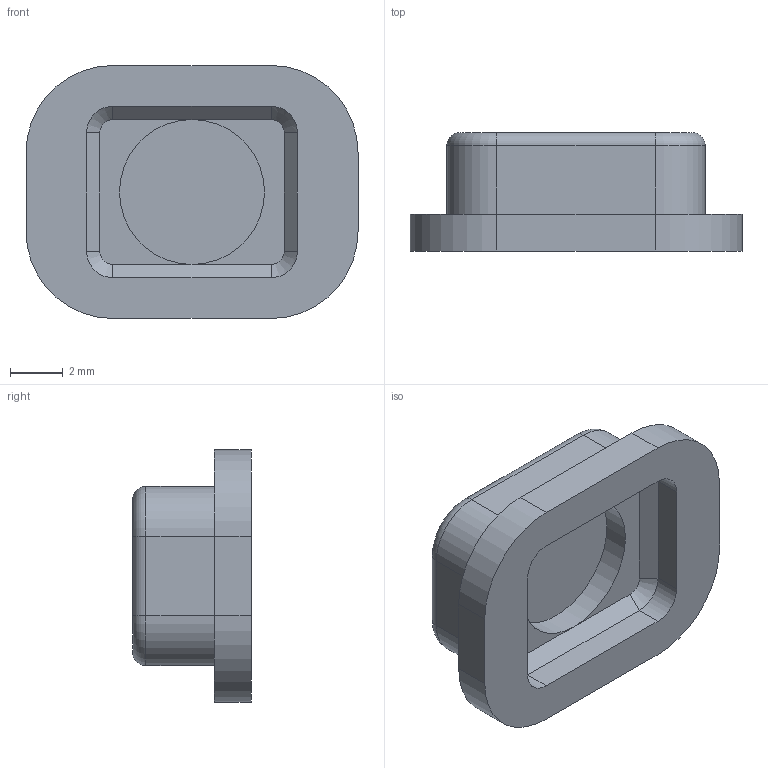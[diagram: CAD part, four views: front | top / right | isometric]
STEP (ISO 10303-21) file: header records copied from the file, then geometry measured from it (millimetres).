
FILE_DESCRIPTION(/* description */ ('STEP AP242','CAx-IF Rec.Pracs.---Representation and Presentation of Product Manufacturing Information (PMI)---4.0---2014-10-13','CAx-IF Rec.Pracs.---3D Tessellated Geometry---0.4---2014-09-14','2;1'),/* implementation_level */ '2;1');
FILE_NAME(/* name */ '687e695af344454910d475b9',/* time_stamp */ '2025-07-21T16:22:51Z',/* author */ (''),/* organization */ (''),/* preprocessor_version */ 'ST-DEVELOPER v20',/* originating_system */ 'ONSHAPE BY PTC INC, 1.201',/* authorisation */ ' ');
FILE_SCHEMA (('AP242_MANAGED_MODEL_BASED_3D_ENGINEERING_MIM_LF { 1 0 10303 442 1 1 4 }'));
Length unit declared in the file: metre
Products named in the file (1): Screen Power Button
Bounding box: 12.6 x 4.5 x 9.6 mm (x, y, z)
Volume: 252.7 mm3; surface area: 420.6 mm2
Topology: 1 solids, 1 shells, 65 faces, 158 edges, 99 vertices
Faces by surface type: plane 30, cylinder 27, torus 4, cone 4
Full cylindrical faces by diameter (mm): 5.5 x1
Entity records: 1920 total; most frequent: DIRECTION 352, CARTESIAN_POINT 322, ORIENTED_EDGE 314, EDGE_CURVE 157, AXIS2_PLACEMENT_3D 129, VERTEX_POINT 99, LINE 94, VECTOR 94
